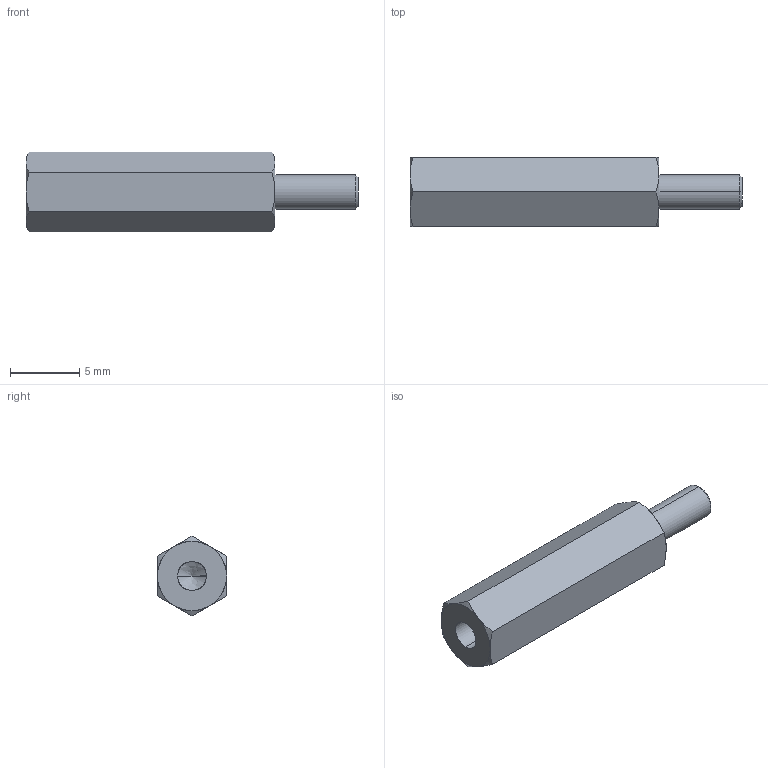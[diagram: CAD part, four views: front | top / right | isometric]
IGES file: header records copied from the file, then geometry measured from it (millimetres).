
Start section: SolidWorks IGES file using analytic representation for surfaces
Global section: file name: C:\Users\render1\Desktop\P0185_IGES\P0185.025-18.igs; native system: SolidWorks 2009; preprocessor: SolidWorks 2009; author: render1; date: 130627.111532; units: millimetre
Bounding box: 24 x 5 x 5.77 mm (x, y, z)
Surface area: 439.3 mm2 (no closed solid volume)
Topology: 0 solids, 0 shells, 29 faces, 324 edges, 322 vertices
Faces by surface type: revolution 20, bspline 9
